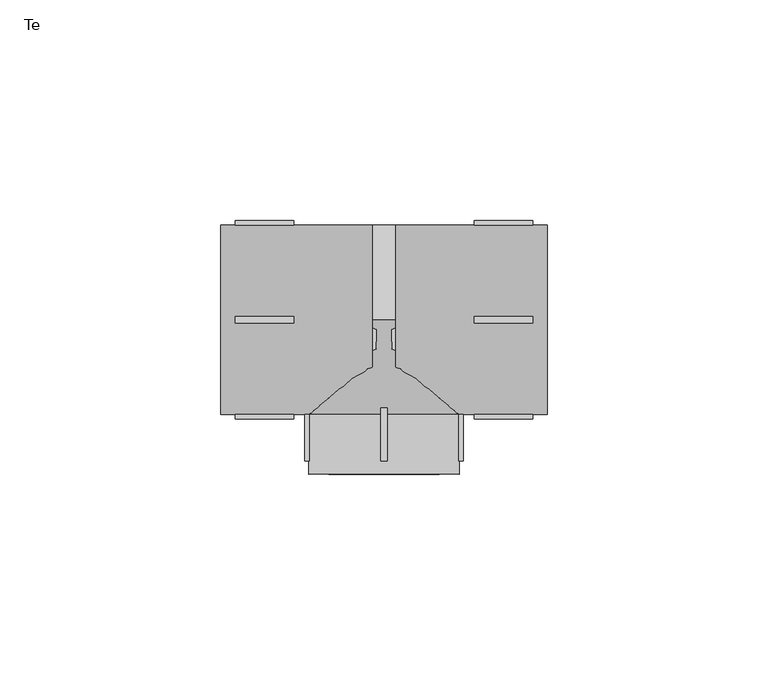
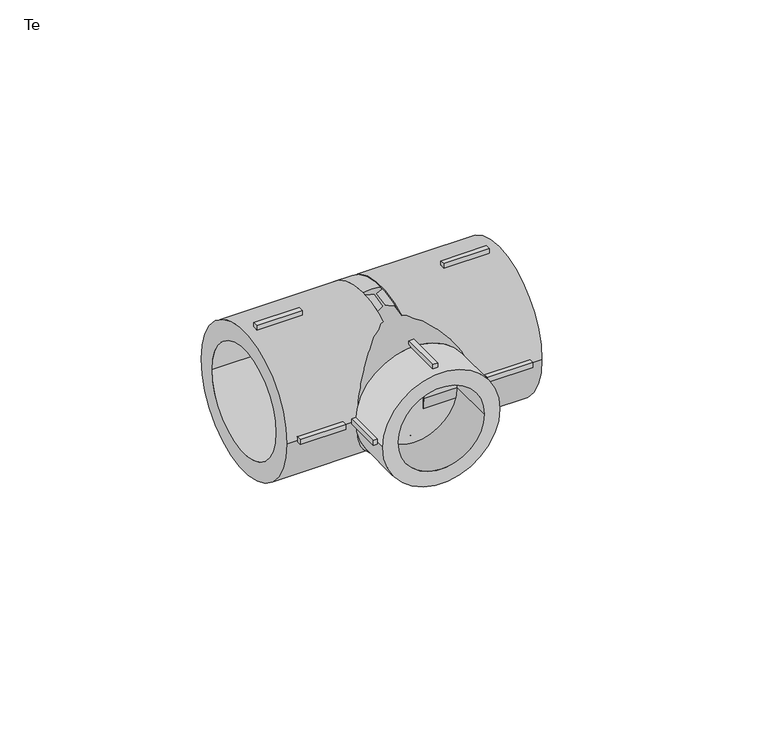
"""IFC4 building model written with IfcOpenShell, lengths in millimetres: pipe fitting geometry, EGB_VASEN_ PPR_Te WXR300_Te reducida WXR310 : Te."""

import ifcopenshell
import ifcopenshell.guid

model = None  # the IFC model being written
_history = None  # IfcOwnerHistory: only IFC2X3 demands one
_inside = {}  # id of a spatial element -> (the spatial element, [elements in it])
_under = {}  # id of a project, library or spatial element -> (it, [spatial elements below it])
_declared = {}  # id of a project -> (the project, [libraries it declares])
_typed = {}  # id of a type object -> (the type object, [elements of that type])
_made_of = {}  # id of a material, layer set ... -> (it, [elements and type objects made of it])


def new_model(schema):
    """Start an empty IFC model of exactly this schema.

    Asked for "IFC4X3", IfcOpenShell would pick the latest addendum, in which some entities
    have other attributes; the version numbers below select the first issue.
    IFC2X3 requires an IfcOwnerHistory on every rooted entity: one is made here for all.
    """
    global model, _history
    if schema == "IFC4X3":
        model = ifcopenshell.file(schema_version=(4, 3, 0, 0))
    else:
        model = ifcopenshell.file(schema=schema)
    _inside.clear()
    _under.clear()
    _declared.clear()
    _typed.clear()
    _made_of.clear()
    _history = None
    if model.schema == "IFC2X3":
        org = make("IfcOrganization", Name="unknown")
        user = make(
            "IfcPersonAndOrganization",
            ThePerson=make("IfcPerson", FamilyName="unknown"),
            TheOrganization=org,
        )
        app = make(
            "IfcApplication",
            ApplicationDeveloper=org,
            Version="unknown",
            ApplicationFullName="unknown",
            ApplicationIdentifier="unknown",
        )
        _history = make(
            "IfcOwnerHistory",
            OwningUser=user,
            OwningApplication=app,
            ChangeAction="ADDED",
            CreationDate=0,
        )
    return model


def make(cls, **values):
    """One entity of the class cls with the attributes given. An attribute that is None is left unset."""
    return model.create_entity(
        cls, **{name: value for name, value in values.items() if value is not None}
    )


def rooted(cls, **values):
    """An entity with a GlobalId (a new one), such as an element, a storey or a relation."""
    return make(cls, GlobalId=ifcopenshell.guid.new(), OwnerHistory=_history, **values)


def si_unit(unit_type, name, prefix=None):
    """IfcSIUnit, for example si_unit("LENGTHUNIT", "METRE", prefix="MILLI")."""
    return make("IfcSIUnit", UnitType=unit_type, Prefix=prefix, Name=name)


def assignment(units):
    """IfcUnitAssignment: the units of a project."""
    return None if units is None else make("IfcUnitAssignment", Units=units)


def point(xyz):
    """IfcCartesianPoint."""
    return None if xyz is None else make("IfcCartesianPoint", Coordinates=xyz)


def direction(xyz):
    """IfcDirection."""
    return None if xyz is None else make("IfcDirection", DirectionRatios=xyz)


def frame(location, z_axis=None, x_axis=None):
    """IfcAxis2Placement3D, a coordinate frame: its origin and axes. An axis left out is left unset."""
    return make(
        "IfcAxis2Placement3D",
        Location=point(location),
        Axis=direction(z_axis),
        RefDirection=direction(x_axis),
    )


def frame_2d(location, x_axis=None):
    """IfcAxis2Placement2D, a coordinate frame in the plane: its origin and x axis."""
    return make(
        "IfcAxis2Placement2D", Location=point(location), RefDirection=direction(x_axis)
    )


def origin():
    """The frame at (0, 0, 0) with its axes left unset."""
    return frame((0.0, 0.0, 0.0))


def origin_2d():
    """The frame at (0, 0) in the plane with its x axis left unset."""
    return frame_2d((0.0, 0.0))


def place(relative_to, where):
    """IfcLocalPlacement: puts the frame where relative to a parent placement (None: the world)."""
    return make(
        "IfcLocalPlacement", PlacementRelTo=relative_to, RelativePlacement=where
    )


def context(
    kind, dimensions, precision=None, world=None, true_north=None, identifier=None
):
    """IfcGeometricRepresentationContext, for example the 3D "Model" context."""
    return make(
        "IfcGeometricRepresentationContext",
        ContextIdentifier=identifier,
        ContextType=kind,
        CoordinateSpaceDimension=dimensions,
        Precision=precision,
        WorldCoordinateSystem=world,
        TrueNorth=true_north,
    )


def project(units=None, contexts=None):
    """IfcProject with its units and contexts."""
    return rooted(
        "IfcProject",
        Name="project",
        RepresentationContexts=contexts,
        UnitsInContext=assignment(units),
    )


def spatial(cls, under=None, at=None, **own):
    """A site, building, storey or space (cls), placed at a placement, below another one or the project."""
    s = rooted(cls, ObjectPlacement=at, **own)
    if under is not None:
        _under.setdefault(under.id(), (under, []))[1].append(s)
    return s


def polyline(points):
    """IfcPolyline through the points."""
    return make("IfcPolyline", Points=[point(p) for p in points])


def circle_curve(where, radius):
    """IfcCircle in the frame where."""
    return make("IfcCircle", Position=where, Radius=radius)


def trimmed(basis, trim1, trim2, sense, master):
    """IfcTrimmedCurve: the piece of a basis curve between two trims."""
    return make(
        "IfcTrimmedCurve",
        BasisCurve=basis,
        Trim1=trim1,
        Trim2=trim2,
        SenseAgreement=sense,
        MasterRepresentation=master,
    )


def segment(curve, same_sense, transition):
    """IfcCompositeCurveSegment."""
    return make(
        "IfcCompositeCurveSegment",
        Transition=transition,
        SameSense=same_sense,
        ParentCurve=curve,
    )


def composite_curve(segments, self_intersect=None):
    """IfcCompositeCurve: segments joined end to end."""
    return make("IfcCompositeCurve", Segments=segments, SelfIntersect=self_intersect)


def outline(outer, holes=None, kind="AREA"):
    """IfcArbitraryClosedProfileDef: a profile drawn as a closed curve; with holes, ...WithVoids."""
    if holes is None:
        return make("IfcArbitraryClosedProfileDef", ProfileType=kind, OuterCurve=outer)
    return make(
        "IfcArbitraryProfileDefWithVoids",
        ProfileType=kind,
        OuterCurve=outer,
        InnerCurves=holes,
    )


def extrude(swept, where, along, depth):
    """IfcExtrudedAreaSolid: the profile swept, set in the frame where, extruded along a direction by depth."""
    return make(
        "IfcExtrudedAreaSolid",
        SweptArea=swept,
        Position=where,
        ExtrudedDirection=direction(along),
        Depth=depth,
    )


def shape(context_of_items, identifier, shape_type, items):
    """IfcShapeRepresentation: the items that make up one representation, for example the "Body"."""
    return make(
        "IfcShapeRepresentation",
        ContextOfItems=context_of_items,
        RepresentationIdentifier=identifier,
        RepresentationType=shape_type,
        Items=items,
    )


def source(mapping_origin, context_of_items, identifier, shape_type, items):
    """IfcRepresentationMap: a shape defined once, which mapped items show again and again."""
    return make(
        "IfcRepresentationMap",
        MappingOrigin=mapping_origin,
        MappedRepresentation=shape(context_of_items, identifier, shape_type, items),
    )


def transform(
    local_origin,
    x_axis=None,
    y_axis=None,
    z_axis=None,
    scale=None,
    scale2=None,
    scale3=None,
    uniform=True,
):
    """IfcCartesianTransformationOperator3D, or its non-uniform kind. x_axis, y_axis, z_axis: its Axis1, 2, 3."""
    if uniform:
        return make(
            "IfcCartesianTransformationOperator3D",
            Axis1=direction(x_axis),
            Axis2=direction(y_axis),
            LocalOrigin=point(local_origin),
            Scale=scale,
            Axis3=direction(z_axis),
        )
    return make(
        "IfcCartesianTransformationOperator3DnonUniform",
        Axis1=direction(x_axis),
        Axis2=direction(y_axis),
        LocalOrigin=point(local_origin),
        Scale=scale,
        Axis3=direction(z_axis),
        Scale2=scale2,
        Scale3=scale3,
    )


def mapped(mapping_source, mapping_target):
    """IfcMappedItem: shows the shape of a source again, moved by a transform."""
    return make(
        "IfcMappedItem", MappingSource=mapping_source, MappingTarget=mapping_target
    )


def made_of(thing, what):
    """Note that an element or type object is made of a material, layer set ...; save() writes the relation."""
    if what is not None:
        _made_of.setdefault(what.id(), (what, []))[1].append(thing)
    return thing


def element(
    cls,
    number,
    at=None,
    inside=None,
    cuts=None,
    type_object=None,
    material=None,
    context=None,
    identifier="Body",
    shape_type=None,
    held_by="IfcProductDefinitionShape",
    body=None,
    shapes=None,
    **own,
):
    """One element of the class cls, such as IfcWall. Its Tag is "e" and its number.

    at: its placement. inside: the storey or other place that contains it. cuts: it is an
    opening in that element (IfcRelVoidsElement). A single representation is given by context,
    identifier, shape_type and body (its items); several are given by shapes. held_by: the class
    of the entity that holds the representations. save() writes the other relations.
    """
    e = rooted(cls, Tag="e%d" % number, ObjectPlacement=at, **own)
    if body is not None:
        shapes = [shape(context, identifier, shape_type, body)]
    if shapes is not None:
        e.Representation = make(held_by, Representations=shapes)
    if inside is not None:
        _inside.setdefault(inside.id(), (inside, []))[1].append(e)
    if cuts is not None:
        rooted(
            "IfcRelVoidsElement", RelatingBuildingElement=cuts, RelatedOpeningElement=e
        )
    if type_object is not None:
        _typed.setdefault(type_object.id(), (type_object, []))[1].append(e)
    return made_of(e, material)


def aggregate(whole, parts):
    """IfcRelAggregates: a whole, such as a stair, and the parts it consists of."""
    return rooted("IfcRelAggregates", RelatingObject=whole, RelatedObjects=parts)


def save(model, path):
    """Write the relations noted so far, then the file.

    IfcRelAggregates (storeys below a building ...), IfcRelContainedInSpatialStructure (elements
    in a storey), IfcRelDefinesByType, IfcRelAssociatesMaterial and IfcRelDeclares: one each for
    every whole, place, type object, material and project.
    """
    for whole, parts in _under.values():
        aggregate(whole, parts)
    for where, things in _inside.values():
        rooted(
            "IfcRelContainedInSpatialStructure",
            RelatedElements=things,
            RelatingStructure=where,
        )
    for kind, things in _typed.values():
        rooted("IfcRelDefinesByType", RelatedObjects=things, RelatingType=kind)
    for what, things in _made_of.values():
        rooted("IfcRelAssociatesMaterial", RelatedObjects=things, RelatingMaterial=what)
    for by, libraries in _declared.values():
        rooted("IfcRelDeclares", RelatingContext=by, RelatedDefinitions=libraries)
    model.write(path)


def plane_surface(at):
    """IfcPlane: the flat surface through the origin of the frame at, square to its z axis."""
    return make("IfcPlane", Position=at)


def revolved_surface(curve, axis_point, axis_direction):
    """IfcSurfaceOfRevolution: the curve turned about the line through axis_point along axis_direction."""
    return make(
        "IfcSurfaceOfRevolution",
        SweptCurve=make("IfcArbitraryOpenProfileDef", ProfileType="CURVE", Curve=curve),
        AxisPosition=make("IfcAxis1Placement", Location=point(axis_point), Axis=direction(axis_direction)),
    )


def advanced_brep(points, edges, surfaces, faces):
    """IfcAdvancedBrep: a solid bounded by faces that lie on surfaces and meet in shared edges.

    An edge is (start, end): straight between two places in points (the first is 0);
    or (start, end, curve); or (start, end, curve, False) where it runs against its curve.
    A face is (place in surfaces, loops), or (place, loops, False) where it looks against
    its surface's normal. A loop lists edges by number (the first is 1), with a minus sign
    where the edge is run from its end to its start. The first loop is the outer one.
    """
    corners = [point(p) for p in points]
    vertices = [make("IfcVertexPoint", VertexGeometry=c) for c in corners]
    made = []
    for start, end, *more in edges:
        made.append(
            make(
                "IfcEdgeCurve",
                EdgeStart=vertices[start],
                EdgeEnd=vertices[end],
                EdgeGeometry=more[0] if more else make("IfcPolyline", Points=[corners[start], corners[end]]),
                SameSense=more[1] if len(more) > 1 else True,
            )
        )
    hull = []
    for where, loops, *sense in faces:
        bounds = []
        for j, loop in enumerate(loops):
            ring = [make("IfcOrientedEdge", EdgeElement=made[abs(k) - 1], Orientation=k > 0) for k in loop]
            bounds.append(
                make(
                    "IfcFaceOuterBound" if j == 0 else "IfcFaceBound",
                    Bound=make("IfcEdgeLoop", EdgeList=ring),
                    Orientation=True,
                )
            )
        hull.append(make("IfcAdvancedFace", Bounds=bounds, FaceSurface=surfaces[where], SameSense=sense[0] if sense else True))
    return make("IfcAdvancedBrep", Outer=make("IfcClosedShell", CfsFaces=hull))


def te_56e4bef2(model_context):
    return source(origin(), model_context, "Body", "SolidModel", [
        extrude(outline(polyline([(-0.75, -20.0), (0.75, -20.0), (0.75, -32.0), (-0.75, -32.0), (-0.75, -20.0)])), frame((0.0, 0.0, 16.0), z_axis=(0.0, 0.0, 1.0), x_axis=(1.0, 0.0, 0.0)), (0.0, 0.0, 1.0), 2.0),
        extrude(outline(polyline([(-0.75, -20.0), (0.75, -20.0), (0.75, -32.0), (-0.75, -32.0), (-0.75, -20.0)])), frame((0.0, 0.0, -18.0), z_axis=(0.0, 0.0, 1.0), x_axis=(1.0, 0.0, 0.0)), (0.0, 0.0, 1.0), 2.0),
        extrude(outline(polyline([(16.0, -20.0), (18.0, -20.0), (18.0, -32.0), (16.0, -32.0), (16.0, -20.0)])), frame((0.0, 0.0, -0.75), z_axis=(0.0, 0.0, 1.0), x_axis=(1.0, 0.0, 0.0)), (0.0, 0.0, 1.0), 1.5),
        extrude(outline(polyline([(-18.0, -20.0), (-16.0, -20.0), (-16.0, -32.0), (-18.0, -32.0), (-18.0, -20.0)])), frame((0.0, 0.0, -0.75), z_axis=(0.0, 0.0, 1.0), x_axis=(1.0, 0.0, 0.0)), (0.0, 0.0, 1.0), 1.5),
        extrude(outline(polyline([(20.5, -0.75), (20.5, 0.75), (33.7, 0.75), (33.7, -0.75), (20.5, -0.75)])), frame((0.0, 0.0, 20.5), z_axis=(0.0, 0.0, 1.0), x_axis=(1.0, 0.0, 0.0)), (0.0, 0.0, 1.0), 2.0),
        extrude(outline(polyline([(20.5, -0.75), (20.5, 0.75), (33.7, 0.75), (33.7, -0.75), (20.5, -0.75)])), frame((0.0, 0.0, -22.5), z_axis=(0.0, 0.0, 1.0), x_axis=(1.0, 0.0, 0.0)), (0.0, 0.0, 1.0), 2.0),
        extrude(outline(polyline([(20.5, 20.5), (20.5, 22.5), (33.7, 22.5), (33.7, 20.5), (20.5, 20.5)])), frame((0.0, 0.0, -0.75), z_axis=(0.0, 0.0, 1.0), x_axis=(1.0, 0.0, 0.0)), (0.0, 0.0, 1.0), 1.5),
        extrude(outline(polyline([(20.5, -22.5), (20.5, -20.5), (33.7, -20.5), (33.7, -22.5), (20.5, -22.5)])), frame((0.0, 0.0, -0.75), z_axis=(0.0, 0.0, 1.0), x_axis=(1.0, 0.0, 0.0)), (0.0, 0.0, 1.0), 1.5),
        extrude(outline(polyline([(-20.5, 0.75), (-20.5, -0.75), (-33.7, -0.75), (-33.7, 0.75), (-20.5, 0.75)])), frame((0.0, 0.0, 20.5), z_axis=(0.0, 0.0, 1.0), x_axis=(1.0, 0.0, 0.0)), (0.0, 0.0, 1.0), 2.0),
        extrude(outline(polyline([(-20.5, 0.75), (-20.5, -0.75), (-33.7, -0.75), (-33.7, 0.75), (-20.5, 0.75)])), frame((0.0, 0.0, -22.5), z_axis=(0.0, 0.0, 1.0), x_axis=(1.0, 0.0, 0.0)), (0.0, 0.0, 1.0), 2.0),
        extrude(outline(polyline([(-20.5, 22.5), (-20.5, 20.5), (-33.7, 20.5), (-33.7, 22.5), (-20.5, 22.5)])), frame((0.0, 0.0, -0.75), z_axis=(0.0, 0.0, 1.0), x_axis=(1.0, 0.0, 0.0)), (0.0, 0.0, 1.0), 1.5),
        extrude(outline(polyline([(-20.5, -20.5), (-20.5, -22.5), (-33.7, -22.5), (-33.7, -20.5), (-20.5, -20.5)])), frame((0.0, 0.0, -0.75), z_axis=(0.0, 0.0, 1.0), x_axis=(1.0, 0.0, 0.0)), (0.0, 0.0, 1.0), 1.5),
        extrude(outline(composite_curve([segment(trimmed(circle_curve(origin_2d(), 17.0), [point((0.0, 17.0))], [point((0.0, -17.0))], False, "CARTESIAN"), True, "CONTINUOUS"), segment(trimmed(circle_curve(origin_2d(), 17.0), [point((0.0, -17.0))], [point((0.0, 17.0))], False, "CARTESIAN"), True, "CONTINUOUS")], self_intersect=False), holes=[composite_curve([segment(trimmed(circle_curve(origin_2d(), 12.5), [point((0.0, 12.5))], [point((0.0, -12.5))], True, "CARTESIAN"), True, "CONTINUOUS"), segment(trimmed(circle_curve(origin_2d(), 12.5), [point((0.0, -12.5))], [point((0.0, 12.5))], True, "CARTESIAN"), True, "CONTINUOUS")], self_intersect=False)]), frame((0.0, -35.0, 0.0), z_axis=(0.0, 1.0, 0.0), x_axis=(0.0, 0.0, 1.0)), (0.0, 0.0, 1.0), 13.5),
        extrude(outline(composite_curve([segment(trimmed(circle_curve(origin_2d(), 21.5), [point((-21.5, 0.0))], [point((21.5, 0.0))], False, "CARTESIAN"), True, "CONTINUOUS"), segment(trimmed(circle_curve(origin_2d(), 21.5), [point((21.5, 0.0))], [point((-21.5, 0.0))], False, "CARTESIAN"), True, "CONTINUOUS")], self_intersect=False), holes=[composite_curve([segment(trimmed(circle_curve(origin_2d(), 16.0), [point((-16.0, 0.0))], [point((16.0, 0.0))], True, "CARTESIAN"), True, "CONTINUOUS"), segment(trimmed(circle_curve(origin_2d(), 16.0), [point((16.0, 0.0))], [point((-16.0, 0.0))], True, "CARTESIAN"), True, "CONTINUOUS")], self_intersect=False)]), frame((2.68, 0.0, 0.0), z_axis=(1.0, 0.0, 0.0), x_axis=(0.0, 1.0, 0.0)), (0.0, 0.0, 1.0), 34.32),
        extrude(outline(composite_curve([segment(trimmed(circle_curve(origin_2d(), 21.5), [point((-21.5, 0.0))], [point((21.5, 0.0))], False, "CARTESIAN"), True, "CONTINUOUS"), segment(trimmed(circle_curve(origin_2d(), 21.5), [point((21.5, 0.0))], [point((-21.5, 0.0))], False, "CARTESIAN"), True, "CONTINUOUS")], self_intersect=False), holes=[composite_curve([segment(trimmed(circle_curve(origin_2d(), 16.0), [point((-16.0, 0.0))], [point((16.0, 0.0))], True, "CARTESIAN"), True, "CONTINUOUS"), segment(trimmed(circle_curve(origin_2d(), 16.0), [point((16.0, 0.0))], [point((-16.0, 0.0))], True, "CARTESIAN"), True, "CONTINUOUS")], self_intersect=False)]), frame((-37.0, 0.0, 0.0), z_axis=(1.0, 0.0, 0.0), x_axis=(0.0, 1.0, 0.0)), (0.0, 0.0, 1.0), 34.32),
        advanced_brep(
        [(21.5, 0.0, 0.0), (-21.5, 0.0, 0.0), (17.0, -21.5, 0.0), (-17.0, -21.5, 0.0)],
        [
            (0, 1, circle_curve(frame((0.0, 0.0, 0.0), z_axis=(0.0, 1.0, 0.0), x_axis=(1.0, 0.0, 0.0)), 21.5)),
            (1, 0, circle_curve(frame((0.0, 0.0, 0.0), z_axis=(0.0, 1.0, 0.0), x_axis=(-1.0, 0.0, 0.0)), 21.5)),
            (2, 3, circle_curve(frame((0.0, -21.5, 0.0), z_axis=(0.0, -1.0, 0.0), x_axis=(-1.0, 0.0, 0.0)), 17.0)),
            (3, 2, circle_curve(frame((0.0, -21.5, 0.0), z_axis=(0.0, -1.0, 0.0), x_axis=(1.0, 0.0, 0.0)), 17.0)),
            (3, 1),
            (0, 2),
        ],
        [
            plane_surface(frame((0.0, 0.0, 0.0), z_axis=(0.0, 1.0, 0.0), x_axis=(0.0, 0.0, -1.0))),
            plane_surface(frame((0.0, -21.5, 0.0), z_axis=(0.0, -1.0, 0.0), x_axis=(0.0, 0.0, -1.0))),
            revolved_surface(polyline([(-16.9999999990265, -21.5, 0.0), (-21.5, 0.0, 0.0)]), (0.0, -102.7222222, 0.0), (0.0, 1.0, 0.0)),
            revolved_surface(polyline([(16.9999999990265, -21.5, 0.0), (21.5, 0.0, 0.0)]), (0.0, -102.7222222, 0.0), (0.0, 1.0, 0.0)),
        ],
        [
            (0, [[1, 2]]),
            (1, [[3, 4]]),
            (2, [[-4, 5, -1, 6]]),
            (3, [[-3, -6, -2, -5]]),
        ],
    ),
        extrude(outline(composite_curve([segment(trimmed(circle_curve(origin_2d(), 21.5), [point((-21.5, 0.0))], [point((21.5, 0.0))], False, "CARTESIAN"), True, "CONTINUOUS"), segment(trimmed(circle_curve(origin_2d(), 21.5), [point((21.5, 0.0))], [point((-21.5, 0.0))], False, "CARTESIAN"), True, "CONTINUOUS")], self_intersect=False)), frame((-2.68, 0.0, 0.0), z_axis=(1.0, 0.0, 0.0), x_axis=(0.0, 1.0, 0.0)), (0.0, 0.0, 1.0), 5.36),
    ])


if __name__ == "__main__":
    model = new_model("IFC4")
    model_context = context("Model", 3, world=origin())
    ifc_project = project(units=[si_unit("LENGTHUNIT", "METRE", prefix="MILLI")], contexts=[model_context])
    site = spatial("IfcSite", under=ifc_project)
    building = spatial("IfcBuilding", under=site)
    placement = place(None, origin())
    te_shape = te_56e4bef2(model_context)
    element("IfcPipeFitting", 1, ObjectType="EGB_VASEN_ PPR_Te WXR300_Te reducida WXR310 : Te", at=placement, inside=building, context=model_context, shape_type="MappedRepresentation", body=[
        mapped(te_shape, transform((0.0, 0.0, 0.0), x_axis=(1.0, 0.0, 0.0), y_axis=(0.0, 1.0, 0.0), z_axis=(0.0, 0.0, 1.0))),
    ])
    save(model, "model.ifc")
